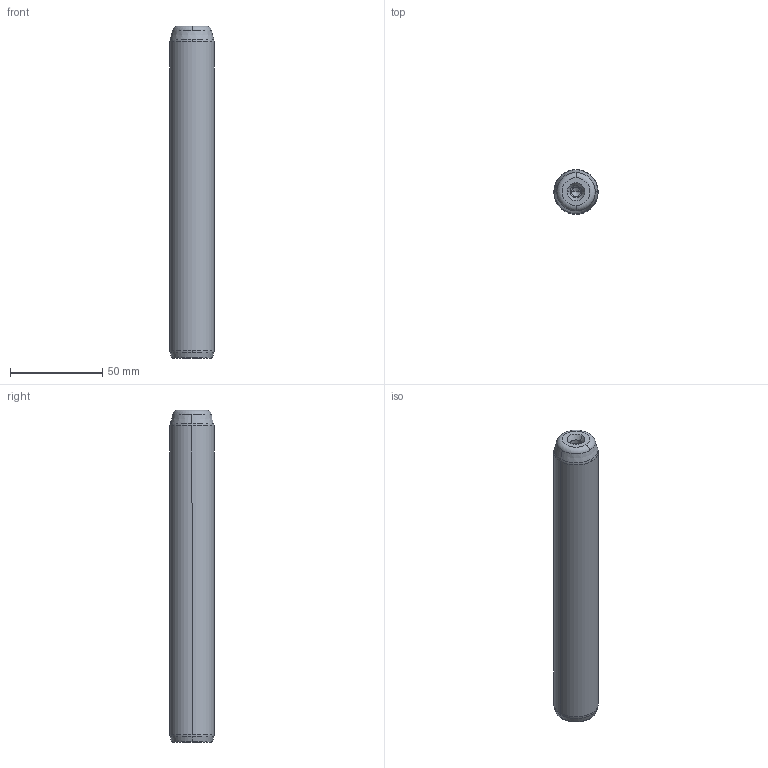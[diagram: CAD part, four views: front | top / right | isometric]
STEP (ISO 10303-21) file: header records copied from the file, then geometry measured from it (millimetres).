
FILE_DESCRIPTION((''),'2;1');
FILE_NAME('P10_024_180.stp','2008-12-23T14:35:35',(''),(''),'Mechanical Desktop 2009','Mechanical Desktop 2009',', , ');
FILE_SCHEMA(('CONFIG_CONTROL_DESIGN'));
Length unit declared in the file: millimetre
Products named in the file (5): Product; ProductAA; blmdl1; ProductA; blmdl1A
Assembly tree (2 placements, depth 3):
  Product
    ProductAA
      blmdl1
  ProductA
  blmdl1A
Bounding box: 24 x 24 x 180 mm (x, y, z)
Volume: 80096.8 mm3; surface area: 14508.5 mm2
Topology: 1 solids, 1 shells, 26 faces, 66 edges, 41 vertices
Faces by surface type: cone 10, torus 8, cylinder 6, plane 2
Entity records: 1012 total; most frequent: DIRECTION 170, CARTESIAN_POINT 134, ORIENTED_EDGE 128, AXIS2_PLACEMENT_3D 77, EDGE_CURVE 64, CIRCLE 48, VERTEX_POINT 41, EDGE_LOOP 27
